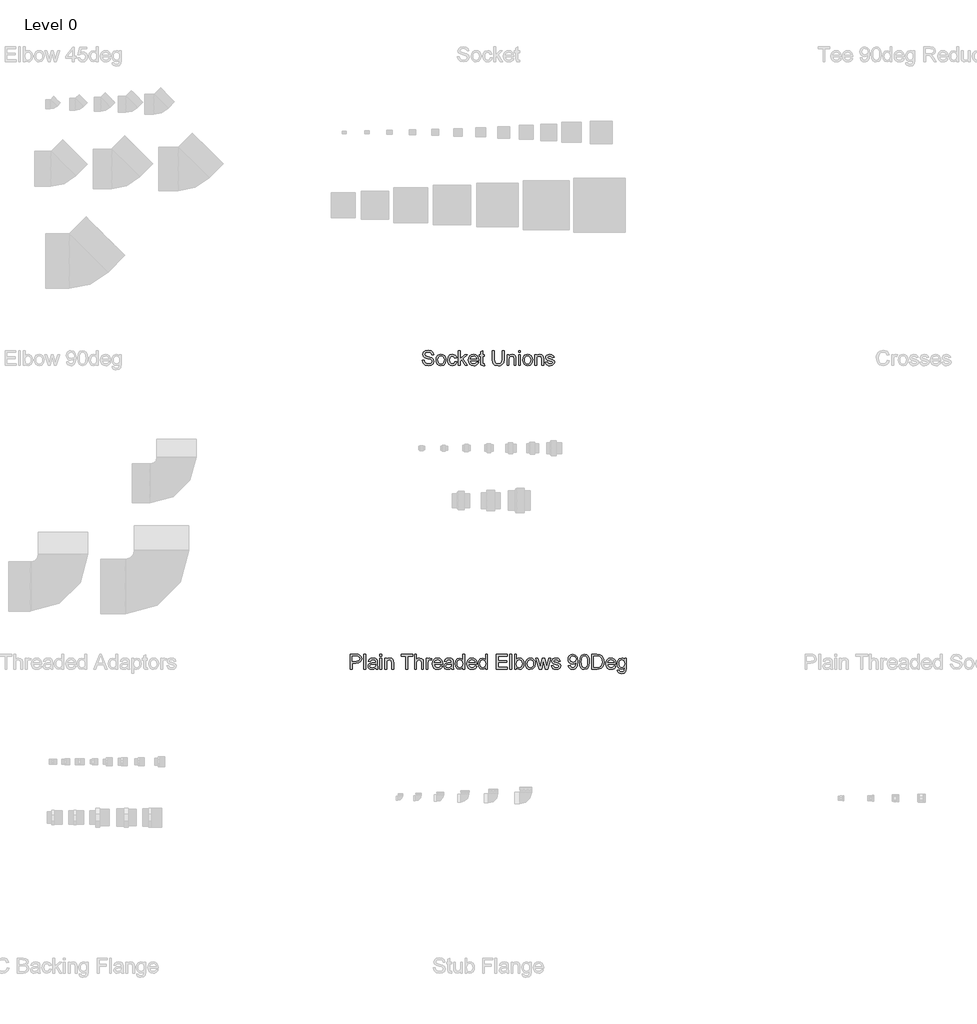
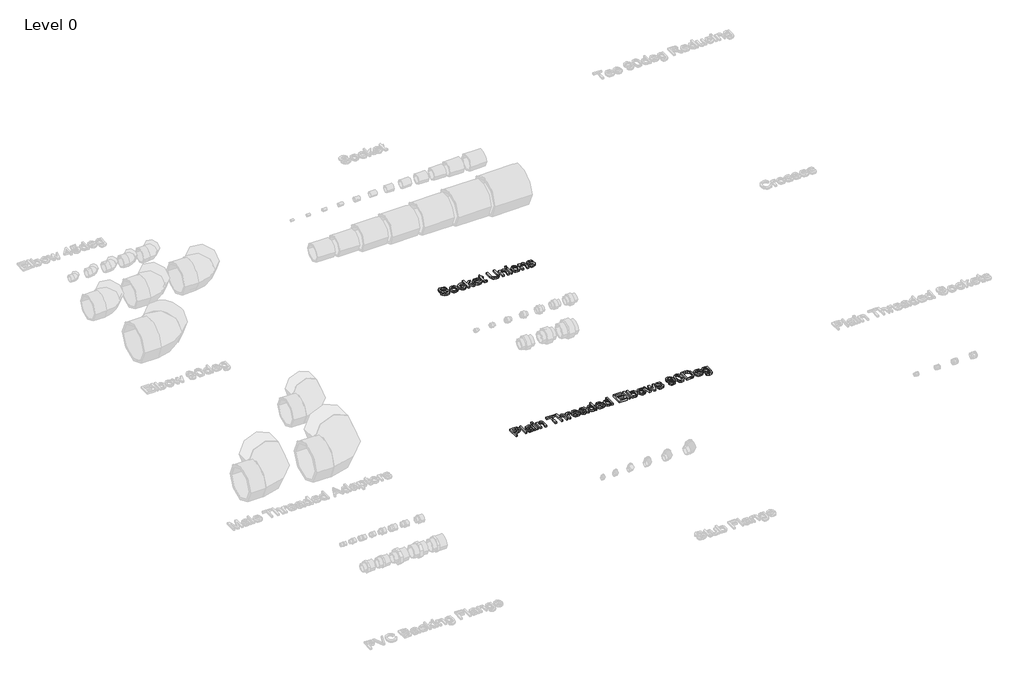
# One storey, part 6 of 12: 2 proxies.
"""IFC4 building model written with IfcOpenShell, lengths in millimetres."""

from ifc_helpers import new_model, si_unit, origin, origin_with_axes, place, context, project, spatial, polyline, outline, extrude, element, save

model = new_model("IFC4")

# Units and contexts
model_context = context("Model", 3, world=origin())
ifc_project = project(units=[si_unit("LENGTHUNIT", "METRE", prefix="MILLI")], contexts=[model_context])

# Site, building, storey
site = spatial("IfcSite", under=ifc_project)
building = spatial("IfcBuilding", under=site)
storey = spatial("IfcBuildingStorey", under=building, Name="Level 0", Elevation=0.0)

# Proxies
placement = place(None, origin())
element("IfcBuildingElementProxy", 1, Name="150mm Arial", ObjectType="150mm Arial", at=placement, inside=storey, context=model_context, shape_type="SweptSolid", body=[
    extrude(outline(polyline([(-13871.8130996, 2979.5714996), (-13859.5054073, 2979.5714996), (-13855.5390612, 2967.251788), (-13845.8515612, 2959.4633265), (-13831.0919458, 2956.4945765), (-13818.2313689, 2958.7421727), (-13809.9260804, 2964.9200573), (-13807.197715, 2973.1772688), (-13809.2409843, 2980.8575573), (-13817.6063689, 2986.4464996), (-13835.5270419, 2991.1460188), (-13854.8179073, 2997.2157304), (-13865.2866573, 3006.3743842), (-13868.7361766, 3018.6099611), (-13864.4693496, 3032.5402496), (-13852.0054073, 3042.3719804), (-13833.760215, 3045.7253457), (-13814.2890612, 3042.2157304), (-13801.3082919, 3031.9032304), (-13796.4284843, 3016.4945765), (-13808.7361766, 3016.4945765), (-13815.7073304, 3029.1388073), (-13833.2794458, 3033.4176534), (-13850.8996381, 3029.1868842), (-13856.4284843, 3018.970538), (-13852.510215, 3010.4368842), (-13832.4140612, 3003.5618842), (-13810.635215, 2997.3839996), (-13798.7241573, 2987.408038), (-13794.8900227, 2973.4897688), (-13799.3010804, 2958.7662111), (-13811.9933881, 2948.0210188), (-13830.6111766, 2944.1868842), (-13852.5943496, 2948.3214996), (-13866.5005996, 2960.7734227), (-13871.8130996, 2979.5714996)])), origin_with_axes(), (0.0, 0.0, 1.0), 15.0),
    extrude(outline(polyline([(-13781.0438689, 2981.8791919), (-13778.3816093, 2999.3130861), (-13770.3948304, 3011.5666919), (-13760.5270419, 3017.5702977), (-13748.7121381, 3019.5714996), (-13735.7824506, 3017.1346005), (-13725.4549266, 3009.8239034), (-13718.6850948, 2998.2163313), (-13716.4284843, 2982.8888073), (-13720.4188689, 2960.9897688), (-13732.041465, 2948.5979419), (-13748.7121381, 2944.1868842), (-13761.7980756, 2946.6147688), (-13772.1135804, 2953.8984227), (-13778.8112968, 2965.7493842), (-13781.0438689, 2981.8791919)]), holes=[polyline([(-13768.7361766, 2981.9032304), (-13767.3118977, 2970.7644082), (-13763.0390612, 2962.8287111), (-13756.6087727, 2958.0781102), (-13748.7121381, 2956.4945765), (-13740.8515612, 2958.0871246), (-13734.4332919, 2962.8647688), (-13730.1604554, 2970.9056342), (-13728.7361766, 2982.2878457), (-13730.1694698, 2993.1021486), (-13734.4693496, 3000.9296727), (-13740.8966333, 3005.6802736), (-13748.7121381, 3007.2638073), (-13756.6087727, 3005.6862832), (-13763.0390612, 3000.9537111), (-13767.3118977, 2993.0360429), (-13768.7361766, 2981.9032304)])]), origin_with_axes(), (0.0, 0.0, 1.0), 15.0),
    extrude(outline(polyline([(-13656.4284843, 2971.8791919), (-13644.1207919, 2970.3407304), (-13647.5522823, 2959.3942159), (-13654.0005996, 2951.1219804), (-13662.8587727, 2945.9206582), (-13673.5198304, 2944.1868842), (-13686.6117775, 2946.6057544), (-13696.8491573, 2953.862365), (-13703.4567294, 2965.6382063), (-13705.6592535, 2981.6147688), (-13701.8972343, 3002.0594804), (-13690.4308881, 3015.1964996), (-13673.6880996, 3019.5714996), (-13663.2884602, 3018.0690957), (-13654.9741573, 3013.5618842), (-13649.0096141, 3006.2902496), (-13645.6592535, 2996.4945765), (-13657.9669458, 2994.956115), (-13663.6760804, 3004.174865), (-13673.5919458, 3007.2638073), (-13681.5456718, 3005.7433746), (-13687.8587727, 3001.1820765), (-13691.9783641, 2993.3335188), (-13693.3515612, 2981.9513073), (-13692.0084121, 2970.4158505), (-13687.978965, 2962.5402496), (-13681.7800468, 2958.0059948), (-13673.9284843, 2956.4945765), (-13662.3299266, 2960.268615), (-13656.4284843, 2971.8791919)])), origin_with_axes(), (0.0, 0.0, 1.0), 15.0),
    extrude(outline(polyline([(-13633.3515612, 2945.7253457), (-13633.3515612, 3044.1868842), (-13621.0438689, 3044.1868842), (-13621.0438689, 2991.2782304), (-13593.447715, 3018.033038), (-13576.4284843, 3018.033038), (-13604.3611766, 2990.9416919), (-13574.8900227, 2945.7253457), (-13589.2650227, 2945.7253457), (-13613.1832919, 2982.3839996), (-13621.0438689, 2974.7638073), (-13621.0438689, 2945.7253457), (-13633.3515612, 2945.7253457)])), origin_with_axes(), (0.0, 0.0, 1.0), 15.0),
    extrude(outline(polyline([(-13513.4957919, 2967.2638073), (-13501.4284843, 2965.7253457), (-13505.776441, 2956.6327977), (-13512.7145419, 2949.8359227), (-13522.0865371, 2945.5991438), (-13533.7361766, 2944.1868842), (-13548.1772823, 2946.6237832), (-13559.2890612, 2953.9344804), (-13566.3743977, 2965.6442159), (-13568.7361766, 2981.2782304), (-13566.3503593, 2997.4380861), (-13559.1929073, 3009.5234227), (-13548.2313689, 3017.0594804), (-13534.4332919, 3019.5714996), (-13521.0649025, 3017.06549), (-13510.3828112, 3009.5474611), (-13503.3786044, 2997.486163), (-13501.0438689, 2981.3503457), (-13501.1159843, 2978.033038), (-13556.4284843, 2978.033038), (-13554.2980756, 2968.8202977), (-13549.3491573, 2962.0474611), (-13533.4957919, 2956.4945765), (-13521.4284843, 2959.0666919), (-13513.4957919, 2967.2638073)]), holes=[polyline([(-13556.4284843, 2990.3407304), (-13513.3515612, 2990.3407304), (-13518.2794458, 3001.4945765), (-13525.4549266, 3005.8214996), (-13534.4813689, 3007.2638073), (-13549.6376189, 3002.6604419), (-13556.4284843, 2990.3407304)])]), origin_with_axes(), (0.0, 0.0, 1.0), 15.0),
    extrude(outline(polyline([(-13462.5823304, 2955.9897688), (-13461.0438689, 2945.3647688), (-13470.2505996, 2944.1868842), (-13480.5630996, 2946.2301534), (-13485.7073304, 2951.5907304), (-13487.197715, 2965.5570765), (-13487.197715, 3005.7253457), (-13496.4284843, 3005.7253457), (-13496.4284843, 3018.033038), (-13487.197715, 3018.033038), (-13487.197715, 3035.6051534), (-13474.8900227, 3042.8407304), (-13474.8900227, 3018.033038), (-13462.5823304, 3018.033038), (-13462.5823304, 3005.7253457), (-13474.8900227, 3005.7253457), (-13474.8900227, 2965.9176534), (-13474.2409843, 2959.5714996), (-13472.1376189, 2957.3239034), (-13467.9429073, 2956.4945765), (-13462.5823304, 2955.9897688)])), origin_with_axes(), (0.0, 0.0, 1.0), 15.0),
    extrude(outline(polyline([(-13345.6592535, 3044.1868842), (-13333.3515612, 3044.1868842), (-13333.3515612, 2987.3839996), (-13336.6929073, 2963.8383265), (-13348.7361766, 2949.6556342), (-13358.7962727, 2945.5540717), (-13371.572715, 2944.1868842), (-13394.0606958, 2948.9464996), (-13401.5486766, 2954.7728217), (-13406.5366573, 2962.7325573), (-13410.2746381, 2987.3839996), (-13410.2746381, 3044.1868842), (-13397.9669458, 3044.1868842), (-13397.9669458, 2987.8166919), (-13395.5390612, 2969.0546727), (-13387.197715, 2959.7638073), (-13372.7265612, 2956.4945765), (-13360.2085323, 2958.111163), (-13351.885215, 2962.9609227), (-13347.2157439, 2972.408038), (-13345.6592535, 2987.8166919), (-13345.6592535, 3044.1868842)])), origin_with_axes(), (0.0, 0.0, 1.0), 15.0),
    extrude(outline(polyline([(-13313.3515612, 2945.7253457), (-13313.3515612, 3018.033038), (-13301.0438689, 3018.033038), (-13301.0438689, 3007.9368842), (-13291.6328112, 3016.6628457), (-13278.7842535, 3019.5714996), (-13267.1616573, 3017.2277496), (-13259.228965, 3011.0739034), (-13255.5390612, 3002.0234227), (-13254.8900227, 2990.1243842), (-13254.8900227, 2945.7253457), (-13267.197715, 2945.7253457), (-13267.197715, 2988.4657304), (-13268.6159843, 2999.3551534), (-13273.6280035, 3005.112365), (-13282.0775227, 3007.2638073), (-13295.4308881, 3002.4320765), (-13299.6406237, 2995.4308746), (-13301.0438689, 2984.0907304), (-13301.0438689, 2945.7253457), (-13313.3515612, 2945.7253457)])), origin_with_axes(), (0.0, 0.0, 1.0), 15.0),
    extrude(outline(polyline([(-13237.9669458, 2945.7253457), (-13237.9669458, 3018.033038), (-13225.6592535, 3018.033038), (-13225.6592535, 2945.7253457), (-13237.9669458, 2945.7253457)])), origin_with_axes(), (0.0, 0.0, 1.0), 15.0),
    extrude(outline(polyline([(-13237.9669458, 3031.8791919), (-13237.9669458, 3044.1868842), (-13225.6592535, 3044.1868842), (-13225.6592535, 3031.8791919), (-13237.9669458, 3031.8791919)])), origin_with_axes(), (0.0, 0.0, 1.0), 15.0),
    extrude(outline(polyline([(-13210.2746381, 2981.8791919), (-13207.6123785, 2999.3130861), (-13199.6255996, 3011.5666919), (-13189.7578112, 3017.5702977), (-13177.9429073, 3019.5714996), (-13165.0132198, 3017.1346005), (-13154.6856958, 3009.8239034), (-13147.9158641, 2998.2163313), (-13145.6592535, 2982.8888073), (-13149.6496381, 2960.9897688), (-13161.2722343, 2948.5979419), (-13177.9429073, 2944.1868842), (-13191.0288448, 2946.6147688), (-13201.3443496, 2953.8984227), (-13208.042066, 2965.7493842), (-13210.2746381, 2981.8791919)]), holes=[polyline([(-13197.9669458, 2981.9032304), (-13196.5426669, 2970.7644082), (-13192.2698304, 2962.8287111), (-13185.8395419, 2958.0781102), (-13177.9429073, 2956.4945765), (-13170.0823304, 2958.0871246), (-13163.6640612, 2962.8647688), (-13159.3912246, 2970.9056342), (-13157.9669458, 2982.2878457), (-13159.4002391, 2993.1021486), (-13163.7001189, 3000.9296727), (-13170.1274025, 3005.6802736), (-13177.9429073, 3007.2638073), (-13185.8395419, 3005.6862832), (-13192.2698304, 3000.9537111), (-13196.5426669, 2993.0360429), (-13197.9669458, 2981.9032304)])]), origin_with_axes(), (0.0, 0.0, 1.0), 15.0),
    extrude(outline(polyline([(-13131.8130996, 2945.7253457), (-13131.8130996, 3018.033038), (-13119.5054073, 3018.033038), (-13119.5054073, 3007.9368842), (-13110.0943496, 3016.6628457), (-13097.2457919, 3019.5714996), (-13085.6231958, 3017.2277496), (-13077.6905035, 3011.0739034), (-13074.0005996, 3002.0234227), (-13073.3515612, 2990.1243842), (-13073.3515612, 2945.7253457), (-13085.6592535, 2945.7253457), (-13085.6592535, 2988.4657304), (-13087.0775227, 2999.3551534), (-13092.0895419, 3005.112365), (-13100.5390612, 3007.2638073), (-13113.8924266, 3002.4320765), (-13118.1021621, 2995.4308746), (-13119.5054073, 2984.0907304), (-13119.5054073, 2945.7253457), (-13131.8130996, 2945.7253457)])), origin_with_axes(), (0.0, 0.0, 1.0), 15.0),
    extrude(outline(polyline([(-13061.0438689, 2967.2638073), (-13048.7361766, 2968.8022688), (-13043.0390612, 2959.6676534), (-13029.9861766, 2956.4945765), (-13017.4380996, 2959.4032304), (-13013.3515612, 2966.2301534), (-13017.4621381, 2971.7589996), (-13030.1304073, 2975.268615), (-13048.6640612, 2981.2902496), (-13056.7530035, 2988.3214996), (-13059.5054073, 2998.2493842), (-13057.2938689, 3007.4200573), (-13051.260215, 3014.4272688), (-13043.4356958, 3018.0690957), (-13032.8467535, 3019.5714996), (-13017.8707919, 3017.1556342), (-13008.3515612, 3010.6171727), (-13004.1207919, 2999.5714996), (-13016.4284843, 2998.033038), (-13021.0558881, 3004.8239034), (-13031.885215, 3007.2638073), (-13043.6640612, 3004.9320765), (-13047.197715, 2999.4993842), (-13045.7313689, 2995.9176534), (-13041.1400227, 2993.2013073), (-13030.5390612, 2990.581115), (-13012.4741573, 2984.7878457), (-13004.0847343, 2978.2253457), (-13001.0438689, 2967.5282304), (-13004.6135804, 2955.7493842), (-13014.9140612, 2947.2037111), (-13030.1544458, 2944.1868842), (-13042.5643016, 2945.6412111), (-13051.6207919, 2950.0041919), (-13057.666465, 2957.2277496), (-13061.0438689, 2967.2638073)])), origin_with_axes(), (0.0, 0.0, 1.0), 15.0),
])
element("IfcBuildingElementProxy", 2, Name="150mm Arial", ObjectType="150mm Arial", at=placement, inside=storey, context=model_context, shape_type="SweptSolid", body=[
    extrude(outline(polyline([(-14345.6592535, 945.7253457), (-14345.6592535, 1044.1868842), (-14309.1688689, 1044.1868842), (-14294.4573304, 1043.2493842), (-14282.4981958, 1038.6460188), (-14274.7457919, 1029.126788), (-14271.8130996, 1015.7013073), (-14273.7932679, 1004.09674), (-14279.7337727, 994.4272688), (-14290.8425468, 987.9008265), (-14308.3275227, 985.7253457), (-14333.3515612, 985.7253457), (-14333.3515612, 945.7253457), (-14345.6592535, 945.7253457)]), holes=[polyline([(-14333.3515612, 998.033038), (-14307.6063689, 998.033038), (-14289.4813689, 1002.5522688), (-14285.4609362, 1007.9909707), (-14284.1207919, 1015.268615), (-14287.2818496, 1025.4609227), (-14295.5871381, 1031.0378457), (-14307.8948304, 1031.8791919), (-14333.3515612, 1031.8791919), (-14333.3515612, 998.033038)])]), origin_with_axes(), (0.0, 0.0, 1.0), 15.0),
    extrude(outline(polyline([(-14256.4284843, 945.7253457), (-14256.4284843, 1044.1868842), (-14244.1207919, 1044.1868842), (-14244.1207919, 945.7253457), (-14256.4284843, 945.7253457)])), origin_with_axes(), (0.0, 0.0, 1.0), 15.0),
    extrude(outline(polyline([(-14179.5054073, 954.956115), (-14191.4405035, 946.6147688), (-14204.6255996, 944.1868842), (-14214.9110564, 945.6472207), (-14222.4981958, 950.0282304), (-14227.1766814, 956.6808746), (-14228.7361766, 964.956115), (-14226.3804073, 974.6916919), (-14220.1905035, 981.7589996), (-14211.572715, 985.7974611), (-14200.9236766, 987.6484227), (-14179.5775227, 991.8791919), (-14179.5054073, 994.6195765), (-14182.8948304, 1003.706115), (-14196.5005996, 1007.2638073), (-14208.9525227, 1004.8960188), (-14214.8900227, 996.4945765), (-14227.197715, 998.033038), (-14221.8731958, 1010.0522688), (-14211.1520419, 1017.095538), (-14194.9140612, 1019.5714996), (-14179.9981958, 1017.3839996), (-14171.572715, 1011.8912111), (-14167.7986766, 1003.5378457), (-14167.197715, 992.768615), (-14167.197715, 977.456115), (-14166.572715, 956.0739034), (-14164.1207919, 945.7253457), (-14176.4284843, 945.7253457), (-14179.5054073, 954.956115)]), holes=[polyline([(-14179.5054073, 979.5714996), (-14199.3611766, 975.7974611), (-14209.9501189, 973.8022688), (-14214.7457919, 970.5570765), (-14216.4284843, 965.8214996), (-14212.7626189, 959.1628457), (-14202.0054073, 956.4945765), (-14189.5534843, 959.439288), (-14181.5246381, 966.5666919), (-14179.5775227, 976.0859227), (-14179.5054073, 979.5714996)])]), origin_with_axes(), (0.0, 0.0, 1.0), 15.0),
    extrude(outline(polyline([(-14150.2746381, 1031.8791919), (-14150.2746381, 1044.1868842), (-14137.9669458, 1044.1868842), (-14137.9669458, 1031.8791919), (-14150.2746381, 1031.8791919)])), origin_with_axes(), (0.0, 0.0, 1.0), 15.0),
    extrude(outline(polyline([(-14150.2746381, 945.7253457), (-14150.2746381, 1018.033038), (-14137.9669458, 1018.033038), (-14137.9669458, 945.7253457), (-14150.2746381, 945.7253457)])), origin_with_axes(), (0.0, 0.0, 1.0), 15.0),
    extrude(outline(polyline([(-14119.5054073, 945.7253457), (-14119.5054073, 1018.033038), (-14107.197715, 1018.033038), (-14107.197715, 1007.9368842), (-14097.7866573, 1016.6628457), (-14084.9380996, 1019.5714996), (-14073.3155035, 1017.2277496), (-14065.3828112, 1011.0739034), (-14061.6929073, 1002.0234227), (-14061.0438689, 990.1243842), (-14061.0438689, 945.7253457), (-14073.3515612, 945.7253457), (-14073.3515612, 988.4657304), (-14074.7698304, 999.3551534), (-14079.7818496, 1005.112365), (-14088.2313689, 1007.2638073), (-14101.5847343, 1002.4320765), (-14105.7944698, 995.4308746), (-14107.197715, 984.0907304), (-14107.197715, 945.7253457), (-14119.5054073, 945.7253457)])), origin_with_axes(), (0.0, 0.0, 1.0), 15.0),
    extrude(outline(polyline([(-13979.5054073, 945.7253457), (-13979.5054073, 1031.8791919), (-14011.8130996, 1031.8791919), (-14011.8130996, 1044.1868842), (-13934.8900227, 1044.1868842), (-13934.8900227, 1031.8791919), (-13967.197715, 1031.8791919), (-13967.197715, 945.7253457), (-13979.5054073, 945.7253457)])), origin_with_axes(), (0.0, 0.0, 1.0), 15.0),
    extrude(outline(polyline([(-13922.5823304, 945.7253457), (-13922.5823304, 1044.1868842), (-13910.2746381, 1044.1868842), (-13910.2746381, 1007.9849611), (-13900.6772823, 1016.674865), (-13888.8563689, 1019.5714996), (-13875.0342535, 1016.4104419), (-13866.6448304, 1007.6724611), (-13864.1207919, 991.4945765), (-13864.1207919, 945.7253457), (-13876.4284843, 945.7253457), (-13876.4284843, 990.220538), (-13880.3467535, 1003.2013073), (-13891.4525227, 1007.2638073), (-13901.5366573, 1004.5234227), (-13908.2674266, 997.095538), (-13910.2746381, 984.1388073), (-13910.2746381, 945.7253457), (-13922.5823304, 945.7253457)])), origin_with_axes(), (0.0, 0.0, 1.0), 15.0),
    extrude(outline(polyline([(-13847.197715, 945.7253457), (-13847.197715, 1018.033038), (-13836.4284843, 1018.033038), (-13836.4284843, 1007.3359227), (-13828.7842535, 1017.1916919), (-13821.0919458, 1019.5714996), (-13808.7361766, 1015.7734227), (-13812.8467535, 1004.7397688), (-13821.5005996, 1007.2638073), (-13828.4597343, 1004.8359227), (-13832.8948304, 998.1051534), (-13834.8900227, 983.7301534), (-13834.8900227, 945.7253457), (-13847.197715, 945.7253457)])), origin_with_axes(), (0.0, 0.0, 1.0), 15.0),
    extrude(outline(polyline([(-13750.4188689, 967.2638073), (-13738.3515612, 965.7253457), (-13742.6995179, 956.6327977), (-13749.6376189, 949.8359227), (-13759.0096141, 945.5991438), (-13770.6592535, 944.1868842), (-13785.1003593, 946.6237832), (-13796.2121381, 953.9344804), (-13803.2974746, 965.6442159), (-13805.6592535, 981.2782304), (-13803.2734362, 997.4380861), (-13796.1159843, 1009.5234227), (-13785.1544458, 1017.0594804), (-13771.3563689, 1019.5714996), (-13757.9879794, 1017.06549), (-13747.3058881, 1009.5474611), (-13740.3016814, 997.486163), (-13737.9669458, 981.3503457), (-13738.0390612, 978.033038), (-13793.3515612, 978.033038), (-13791.2211525, 968.8202977), (-13786.2722343, 962.0474611), (-13770.4188689, 956.4945765), (-13758.3515612, 959.0666919), (-13750.4188689, 967.2638073)]), holes=[polyline([(-13793.3515612, 990.3407304), (-13750.2746381, 990.3407304), (-13755.2025227, 1001.4945765), (-13762.3780035, 1005.8214996), (-13771.4044458, 1007.2638073), (-13786.5606958, 1002.6604419), (-13793.3515612, 990.3407304)])]), origin_with_axes(), (0.0, 0.0, 1.0), 15.0),
    extrude(outline(polyline([(-13679.5054073, 954.956115), (-13691.4405035, 946.6147688), (-13704.6255996, 944.1868842), (-13714.9110564, 945.6472207), (-13722.4981958, 950.0282304), (-13727.1766814, 956.6808746), (-13728.7361766, 964.956115), (-13726.3804073, 974.6916919), (-13720.1905035, 981.7589996), (-13711.572715, 985.7974611), (-13700.9236766, 987.6484227), (-13679.5775227, 991.8791919), (-13679.5054073, 994.6195765), (-13682.8948304, 1003.706115), (-13696.5005996, 1007.2638073), (-13708.9525227, 1004.8960188), (-13714.8900227, 996.4945765), (-13727.197715, 998.033038), (-13721.8731958, 1010.0522688), (-13711.1520419, 1017.095538), (-13694.9140612, 1019.5714996), (-13679.9981958, 1017.3839996), (-13671.572715, 1011.8912111), (-13667.7986766, 1003.5378457), (-13667.197715, 992.768615), (-13667.197715, 977.456115), (-13666.572715, 956.0739034), (-13664.1207919, 945.7253457), (-13676.4284843, 945.7253457), (-13679.5054073, 954.956115)]), holes=[polyline([(-13679.5054073, 979.5714996), (-13699.3611766, 975.7974611), (-13709.9501189, 973.8022688), (-13714.7457919, 970.5570765), (-13716.4284843, 965.8214996), (-13712.7626189, 959.1628457), (-13702.0054073, 956.4945765), (-13689.5534843, 959.439288), (-13681.5246381, 966.5666919), (-13679.5775227, 976.0859227), (-13679.5054073, 979.5714996)])]), origin_with_axes(), (0.0, 0.0, 1.0), 15.0),
    extrude(outline(polyline([(-13605.6592535, 945.7253457), (-13605.6592535, 957.3359227), (-13613.8022823, 947.4741438), (-13625.0582919, 944.1868842), (-13640.2986766, 948.9464996), (-13651.0679073, 962.2277496), (-13654.8900227, 981.8070765), (-13651.3683881, 1001.3984227), (-13640.8155035, 1014.8839996), (-13625.1063689, 1019.5714996), (-13613.760215, 1016.2181342), (-13605.6592535, 1007.5041919), (-13605.6592535, 1044.1868842), (-13593.3515612, 1044.1868842), (-13593.3515612, 945.7253457), (-13605.6592535, 945.7253457)]), holes=[polyline([(-13642.5823304, 981.8551534), (-13641.1941093, 970.7223409), (-13637.0294458, 962.8046727), (-13630.9777631, 958.0721005), (-13623.9284843, 956.4945765), (-13616.8822102, 957.9999852), (-13610.9837727, 962.5162111), (-13606.9903833, 970.127389), (-13605.6592535, 980.9176534), (-13607.0144218, 992.7145284), (-13611.0799266, 1000.893615), (-13617.1286044, 1005.6712592), (-13624.4332919, 1007.2638073), (-13631.5546862, 1005.7343602), (-13637.3900227, 1001.1460188), (-13641.2842535, 993.2644082), (-13642.5823304, 981.8551534)])]), origin_with_axes(), (0.0, 0.0, 1.0), 15.0),
    extrude(outline(polyline([(-13524.2650227, 967.2638073), (-13512.197715, 965.7253457), (-13516.5456718, 956.6327977), (-13523.4837727, 949.8359227), (-13532.8557679, 945.5991438), (-13544.5054073, 944.1868842), (-13558.9465131, 946.6237832), (-13570.0582919, 953.9344804), (-13577.1436285, 965.6442159), (-13579.5054073, 981.2782304), (-13577.11959, 997.4380861), (-13569.9621381, 1009.5234227), (-13559.0005996, 1017.0594804), (-13545.2025227, 1019.5714996), (-13531.8341333, 1017.06549), (-13521.1520419, 1009.5474611), (-13514.1478352, 997.486163), (-13511.8130996, 981.3503457), (-13511.885215, 978.033038), (-13567.197715, 978.033038), (-13565.0673064, 968.8202977), (-13560.1183881, 962.0474611), (-13544.2650227, 956.4945765), (-13532.197715, 959.0666919), (-13524.2650227, 967.2638073)]), holes=[polyline([(-13567.197715, 990.3407304), (-13524.1207919, 990.3407304), (-13529.0486766, 1001.4945765), (-13536.2241573, 1005.8214996), (-13545.2505996, 1007.2638073), (-13560.4068496, 1002.6604419), (-13567.197715, 990.3407304)])]), origin_with_axes(), (0.0, 0.0, 1.0), 15.0),
    extrude(outline(polyline([(-13454.8900227, 945.7253457), (-13454.8900227, 957.3359227), (-13463.0330516, 947.4741438), (-13474.2890612, 944.1868842), (-13489.5294458, 948.9464996), (-13500.2986766, 962.2277496), (-13504.1207919, 981.8070765), (-13500.5991573, 1001.3984227), (-13490.0462727, 1014.8839996), (-13474.3371381, 1019.5714996), (-13462.9909843, 1016.2181342), (-13454.8900227, 1007.5041919), (-13454.8900227, 1044.1868842), (-13442.5823304, 1044.1868842), (-13442.5823304, 945.7253457), (-13454.8900227, 945.7253457)]), holes=[polyline([(-13491.8130996, 981.8551534), (-13490.4248785, 970.7223409), (-13486.260215, 962.8046727), (-13480.2085323, 958.0721005), (-13473.1592535, 956.4945765), (-13466.1129794, 957.9999852), (-13460.2145419, 962.5162111), (-13456.2211525, 970.127389), (-13454.8900227, 980.9176534), (-13456.245191, 992.7145284), (-13460.3106958, 1000.893615), (-13466.3593737, 1005.6712592), (-13473.6640612, 1007.2638073), (-13480.7854554, 1005.7343602), (-13486.6207919, 1001.1460188), (-13490.5150227, 993.2644082), (-13491.8130996, 981.8551534)])]), origin_with_axes(), (0.0, 0.0, 1.0), 15.0),
    extrude(outline(polyline([(-13384.1207919, 945.7253457), (-13384.1207919, 1044.1868842), (-13313.3515612, 1044.1868842), (-13313.3515612, 1031.8791919), (-13371.8130996, 1031.8791919), (-13371.8130996, 1002.6484227), (-13316.4284843, 1002.6484227), (-13316.4284843, 990.3407304), (-13371.8130996, 990.3407304), (-13371.8130996, 958.033038), (-13311.8130996, 958.033038), (-13311.8130996, 945.7253457), (-13384.1207919, 945.7253457)])), origin_with_axes(), (0.0, 0.0, 1.0), 15.0),
    extrude(outline(polyline([(-13294.8900227, 945.7253457), (-13294.8900227, 1044.1868842), (-13282.5823304, 1044.1868842), (-13282.5823304, 945.7253457), (-13294.8900227, 945.7253457)])), origin_with_axes(), (0.0, 0.0, 1.0), 15.0),
    extrude(outline(polyline([(-13251.8130996, 945.7253457), (-13264.1207919, 945.7253457), (-13264.1207919, 1044.1868842), (-13251.8130996, 1044.1868842), (-13251.8130996, 1007.6724611), (-13243.1953112, 1016.59674), (-13232.4861766, 1019.5714996), (-13220.1544458, 1016.8912111), (-13210.5871381, 1009.3551534), (-13204.7097343, 997.6364034), (-13202.5823304, 982.9609227), (-13204.7848544, 966.5306342), (-13211.3924266, 954.3070765), (-13221.088941, 946.7169323), (-13232.5582919, 944.1868842), (-13243.5018016, 947.4501054), (-13251.8130996, 957.2397688), (-13251.8130996, 945.7253457)]), holes=[polyline([(-13251.8130996, 982.3839996), (-13248.447715, 965.1724611), (-13241.9993977, 958.6640477), (-13233.6159843, 956.4945765), (-13226.5126189, 958.0931342), (-13220.4429073, 962.8888073), (-13216.2782439, 970.8515477), (-13214.8900227, 981.9513073), (-13216.2211525, 993.2133265), (-13220.2145419, 1001.0859227), (-13226.0949506, 1005.7193361), (-13233.0871381, 1007.2638073), (-13240.1905035, 1005.6652496), (-13246.260215, 1000.8695765), (-13250.4248785, 993.0510669), (-13251.8130996, 982.3839996)])]), origin_with_axes(), (0.0, 0.0, 1.0), 15.0),
    extrude(outline(polyline([(-13191.8130996, 981.8791919), (-13189.15084, 999.3130861), (-13181.1640612, 1011.5666919), (-13171.2962727, 1017.5702977), (-13159.4813689, 1019.5714996), (-13146.5516814, 1017.1346005), (-13136.2241573, 1009.8239034), (-13129.4543256, 998.2163313), (-13127.197715, 982.8888073), (-13131.1880996, 960.9897688), (-13142.8106958, 948.5979419), (-13159.4813689, 944.1868842), (-13172.5673064, 946.6147688), (-13182.8828112, 953.8984227), (-13189.5805275, 965.7493842), (-13191.8130996, 981.8791919)]), holes=[polyline([(-13179.5054073, 981.9032304), (-13178.0811285, 970.7644082), (-13173.8082919, 962.8287111), (-13167.3780035, 958.0781102), (-13159.4813689, 956.4945765), (-13151.6207919, 958.0871246), (-13145.2025227, 962.8647688), (-13140.9296862, 970.9056342), (-13139.5054073, 982.2878457), (-13140.9387006, 993.1021486), (-13145.2385804, 1000.9296727), (-13151.6658641, 1005.6802736), (-13159.4813689, 1007.2638073), (-13167.3780035, 1005.6862832), (-13173.8082919, 1000.9537111), (-13178.0811285, 993.0360429), (-13179.5054073, 981.9032304)])]), origin_with_axes(), (0.0, 0.0, 1.0), 15.0),
    extrude(outline(polyline([(-13101.3563689, 945.7253457), (-13123.3515612, 1018.033038), (-13110.5630996, 1018.033038), (-13098.0871381, 975.845538), (-13094.3611766, 960.7734227), (-13091.3082919, 975.2926534), (-13081.3804073, 1018.033038), (-13066.7169458, 1018.033038), (-13056.8371381, 975.4128457), (-13054.1207919, 962.2638073), (-13050.2265612, 976.1339996), (-13037.7265612, 1018.033038), (-13024.8900227, 1018.033038), (-13047.0534843, 945.7253457), (-13061.9332919, 945.7253457), (-13071.3804073, 988.1291919), (-13074.1207919, 1001.3503457), (-13086.3082919, 945.7253457), (-13101.3563689, 945.7253457)])), origin_with_axes(), (0.0, 0.0, 1.0), 15.0),
    extrude(outline(polyline([(-13021.0438689, 967.2638073), (-13008.7361766, 968.8022688), (-13003.0390612, 959.6676534), (-12989.9861766, 956.4945765), (-12977.4380996, 959.4032304), (-12973.3515612, 966.2301534), (-12977.4621381, 971.7589996), (-12990.1304073, 975.268615), (-13008.6640612, 981.2902496), (-13016.7530035, 988.3214996), (-13019.5054073, 998.2493842), (-13017.2938689, 1007.4200573), (-13011.260215, 1014.4272688), (-13003.4356958, 1018.0690957), (-12992.8467535, 1019.5714996), (-12977.8707919, 1017.1556342), (-12968.3515612, 1010.6171727), (-12964.1207919, 999.5714996), (-12976.4284843, 998.033038), (-12981.0558881, 1004.8239034), (-12991.885215, 1007.2638073), (-13003.6640612, 1004.9320765), (-13007.197715, 999.4993842), (-13005.7313689, 995.9176534), (-13001.1400227, 993.2013073), (-12990.5390612, 990.581115), (-12972.4741573, 984.7878457), (-12964.0847343, 978.2253457), (-12961.0438689, 967.5282304), (-12964.6135804, 955.7493842), (-12974.9140612, 947.2037111), (-12990.1544458, 944.1868842), (-13002.5643016, 945.6412111), (-13011.6207919, 950.0041919), (-13017.666465, 957.2277496), (-13021.0438689, 967.2638073)])), origin_with_axes(), (0.0, 0.0, 1.0), 15.0),
    extrude(outline(polyline([(-12910.2746381, 970.3407304), (-12897.9669458, 971.8791919), (-12892.4380996, 960.1364034), (-12881.9573304, 956.4945765), (-12871.9933881, 958.8383265), (-12865.2385804, 965.1003457), (-12861.2121381, 975.7974611), (-12859.4332919, 990.0763073), (-12859.5054073, 992.4801534), (-12869.3491573, 983.1532304), (-12882.8467535, 979.5714996), (-12894.0697102, 981.7589996), (-12903.4116573, 988.3214996), (-12909.7127391, 998.4597207), (-12911.8130996, 1011.3743842), (-12909.6105756, 1024.7157304), (-12903.0030035, 1035.1724611), (-12893.0781237, 1041.9332784), (-12880.9236766, 1044.1868842), (-12863.3876189, 1039.0426534), (-12851.3203112, 1024.3791919), (-12847.197715, 996.831115), (-12851.3082919, 966.939288), (-12863.5318496, 950.0041919), (-12872.338941, 945.6412111), (-12882.5342535, 944.1868842), (-12893.05709, 945.9026294), (-12901.4525227, 951.049865), (-12907.3239169, 959.3040717), (-12910.2746381, 970.3407304)]), holes=[polyline([(-12859.5054073, 1011.6628457), (-12864.8179073, 1026.4224611), (-12878.9284843, 1031.8791919), (-12887.1496381, 1030.4098409), (-12893.7361766, 1026.001788), (-12898.0630996, 1019.2559948), (-12899.5054073, 1010.7734227), (-12894.0486766, 997.1315957), (-12879.2650227, 991.8791919), (-12865.0703112, 997.1315957), (-12860.8966333, 1003.3906102), (-12859.5054073, 1011.6628457)])]), origin_with_axes(), (0.0, 0.0, 1.0), 15.0),
    extrude(outline(polyline([(-12836.4284843, 994.1628457), (-12832.8106958, 1022.4921727), (-12822.0655035, 1038.8263073), (-12804.1207919, 1044.1868842), (-12789.7457919, 1041.0138073), (-12779.8179073, 1031.8671727), (-12774.0486766, 1017.299865), (-12771.8130996, 994.1628457), (-12775.3948304, 965.9537111), (-12786.103965, 949.5835188), (-12804.1207919, 944.1868842), (-12816.9092535, 946.5306342), (-12826.6207919, 953.5618842), (-12833.9765612, 970.2145284), (-12836.4284843, 994.1628457)]), holes=[polyline([(-12824.1207919, 994.1868842), (-12822.6784843, 974.8269082), (-12818.3515612, 963.6219804), (-12811.9092535, 958.2764275), (-12804.1207919, 956.4945765), (-12796.3323304, 958.2824371), (-12789.8900227, 963.6460188), (-12785.5630996, 974.8569563), (-12784.1207919, 994.1868842), (-12785.5150227, 1013.111163), (-12789.697715, 1024.4032304), (-12796.1280035, 1030.0102015), (-12804.2650227, 1031.8791919), (-12811.9693496, 1030.2325573), (-12818.1592535, 1025.2926534), (-12822.6304073, 1013.2974611), (-12824.1207919, 994.1868842)])]), origin_with_axes(), (0.0, 0.0, 1.0), 15.0),
    extrude(outline(polyline([(-12756.4284843, 945.7253457), (-12756.4284843, 1044.1868842), (-12722.4621381, 1044.1868842), (-12704.8900227, 1042.768615), (-12690.4188689, 1035.7253457), (-12678.760215, 1018.8984227), (-12674.8900227, 995.4849611), (-12677.510215, 975.6171727), (-12684.2409843, 961.2782304), (-12693.2313689, 952.3479419), (-12704.9981958, 947.408038), (-12720.8275227, 945.7253457), (-12756.4284843, 945.7253457)]), holes=[polyline([(-12744.1207919, 958.033038), (-12722.3419458, 958.033038), (-12706.5005996, 959.8118842), (-12697.3659843, 964.8359227), (-12689.8780035, 977.0594804), (-12687.197715, 995.6772688), (-12688.510816, 1009.0907304), (-12692.4501189, 1018.9945765), (-12705.2265612, 1029.908038), (-12722.6784843, 1031.8791919), (-12744.1207919, 1031.8791919), (-12744.1207919, 958.033038)])]), origin_with_axes(), (0.0, 0.0, 1.0), 15.0),
    extrude(outline(polyline([(-12608.8804073, 967.2638073), (-12596.8130996, 965.7253457), (-12601.1610564, 956.6327977), (-12608.0991573, 949.8359227), (-12617.4711525, 945.5991438), (-12629.1207919, 944.1868842), (-12643.5618977, 946.6237832), (-12654.6736766, 953.9344804), (-12661.7590131, 965.6442159), (-12664.1207919, 981.2782304), (-12661.7349746, 997.4380861), (-12654.5775227, 1009.5234227), (-12643.6159843, 1017.0594804), (-12629.8179073, 1019.5714996), (-12616.4495179, 1017.06549), (-12605.7674266, 1009.5474611), (-12598.7632198, 997.486163), (-12596.4284843, 981.3503457), (-12596.5005996, 978.033038), (-12651.8130996, 978.033038), (-12649.682691, 968.8202977), (-12644.7337727, 962.0474611), (-12628.8804073, 956.4945765), (-12616.8130996, 959.0666919), (-12608.8804073, 967.2638073)]), holes=[polyline([(-12651.8130996, 990.3407304), (-12608.7361766, 990.3407304), (-12613.6640612, 1001.4945765), (-12620.8395419, 1005.8214996), (-12629.8659843, 1007.2638073), (-12645.0222343, 1002.6604419), (-12651.8130996, 990.3407304)])]), origin_with_axes(), (0.0, 0.0, 1.0), 15.0),
    extrude(outline(polyline([(-12587.197715, 939.5714996), (-12574.8900227, 938.033038), (-12570.8996381, 931.5426534), (-12558.9525227, 928.8022688), (-12546.3563689, 931.9032304), (-12540.3467535, 940.6051534), (-12539.5054073, 954.956115), (-12548.1712727, 948.033038), (-12558.7361766, 945.7253457), (-12571.4254794, 948.4116438), (-12580.8876189, 956.470538), (-12586.7740371, 968.2854419), (-12588.7361766, 982.2397688), (-12585.2145419, 1001.314288), (-12575.0222343, 1014.8118842), (-12559.3371381, 1019.5714996), (-12548.3575708, 1016.8791919), (-12539.5054073, 1008.8022688), (-12539.5054073, 1018.033038), (-12527.197715, 1018.033038), (-12527.197715, 955.6051534), (-12530.5630996, 931.6989034), (-12541.2241573, 920.581115), (-12559.1929073, 916.4945765), (-12570.6442294, 917.9338794), (-12579.6616573, 922.251788), (-12585.4459121, 929.4603217), (-12587.197715, 939.5714996)]), holes=[polyline([(-12576.4284843, 983.081115), (-12575.1153833, 971.7920525), (-12571.1760804, 964.0306342), (-12565.2536044, 959.5324371), (-12557.9909843, 958.033038), (-12550.7824506, 959.5234227), (-12544.8299266, 963.9945765), (-12540.8365371, 971.6568361), (-12539.5054073, 982.720538), (-12540.8755996, 993.3906102), (-12544.9861766, 1001.0739034), (-12551.02584, 1005.7163313), (-12558.1832919, 1007.2638073), (-12565.2115371, 1005.7403698), (-12571.103965, 1001.1700573), (-12575.0973544, 993.6009467), (-12576.4284843, 983.081115)])]), origin_with_axes(), (0.0, 0.0, 1.0), 15.0),
])

save(model, "model.ifc")
